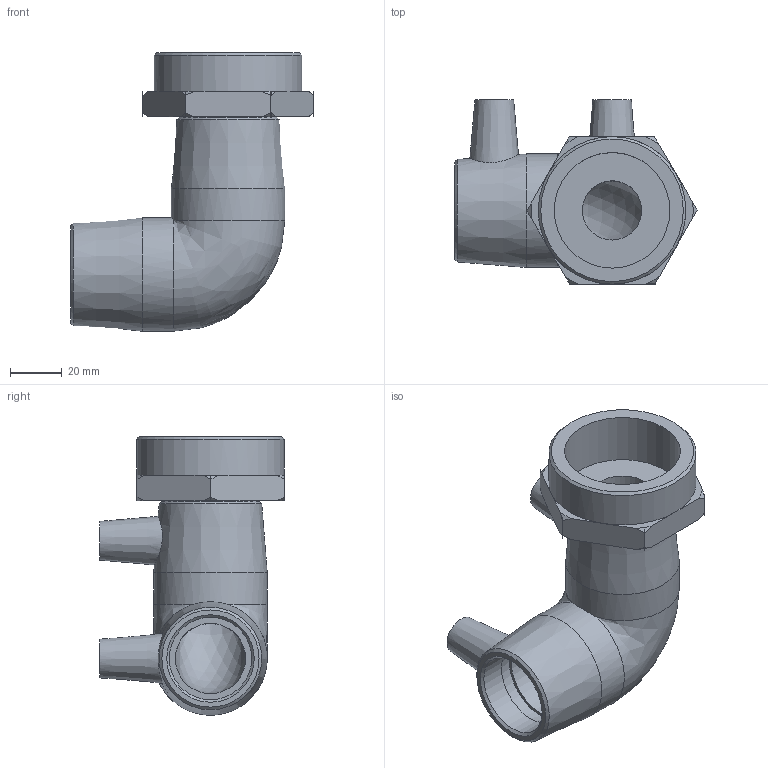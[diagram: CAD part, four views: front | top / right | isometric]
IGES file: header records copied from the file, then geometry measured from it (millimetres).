
Global section: file name: 493504032015.ipt; native system: Autodesk Inventor 2015; preprocessor: unknown; author: KIM; date: 20200202.123453; units: millimetre
Bounding box: 94.02 x 71.68 x 108 mm (x, y, z)
Volume: 138100.3 mm3; surface area: 42980.8 mm2
Topology: 2 solids, 2 shells, 76 faces, 215 edges, 150 vertices
Faces by surface type: plane 27, revolution 22, cone 19, cylinder 7, bspline 1
Full cylindrical faces by diameter (mm): 4 x2, 32 x2, 44 x2, 57.2 x1
